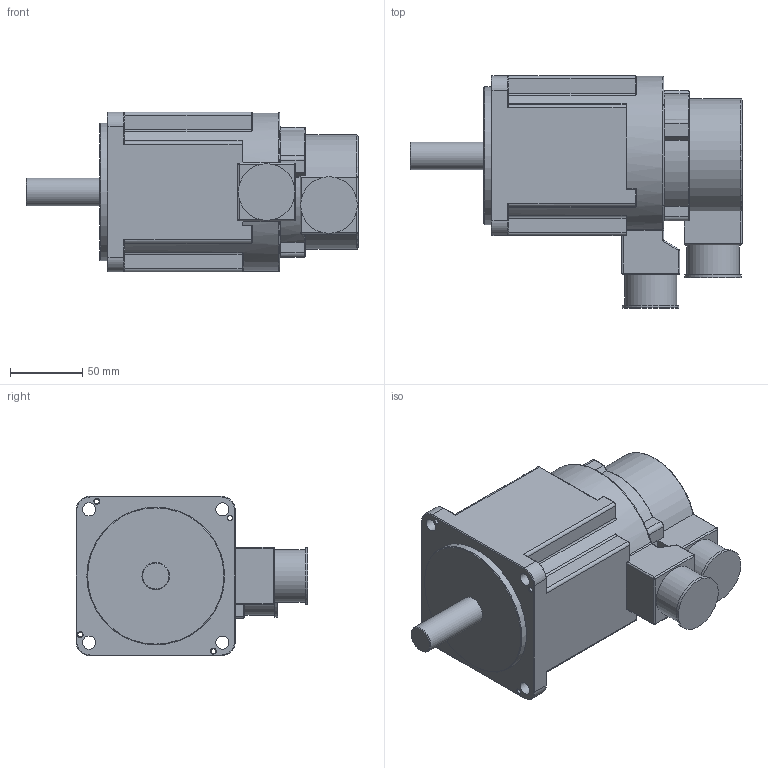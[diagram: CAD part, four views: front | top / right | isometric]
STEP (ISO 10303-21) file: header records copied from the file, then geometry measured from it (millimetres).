
FILE_DESCRIPTION(/* description */ (''),/* implementation_level */ '2;1');
FILE_NAME(/* name */ '110GSL06025(110GAL06020).stp',/* time_stamp */ '2019-11-22T14:09:50+08:00',/* author */ (''),/* organization */ (''),/* preprocessor_version */ 'ST-DEVELOPER v16',/* originating_system */ 'SIEMENS PLM Software NX 10.0',/* authorisation */ '');
FILE_SCHEMA (('CONFIG_CONTROL_DESIGN'));
Length unit declared in the file: millimetre
Products named in the file (1): 110GSL06025(110GAL06020)
Bounding box: 229 x 160 x 110 mm (x, y, z)
Volume: 1711198.1 mm3; surface area: 106223 mm2
Topology: 1 solids, 1 shells, 271 faces, 660 edges, 381 vertices
Faces by surface type: cylinder 126, plane 65, torus 44, bspline 15, sphere 11, cone 10
Full cylindrical faces by diameter (mm): 3.3 x4, 9 x4, 19 x1, 36 x2, 39 x2, 95 x1
Entity records: 8801 total; most frequent: CARTESIAN_POINT 2562, DIRECTION 1354, ORIENTED_EDGE 1226, EDGE_CURVE 613, AXIS2_PLACEMENT_3D 547, VERTEX_POINT 375, EDGE_LOOP 318, ADVANCED_FACE 271
